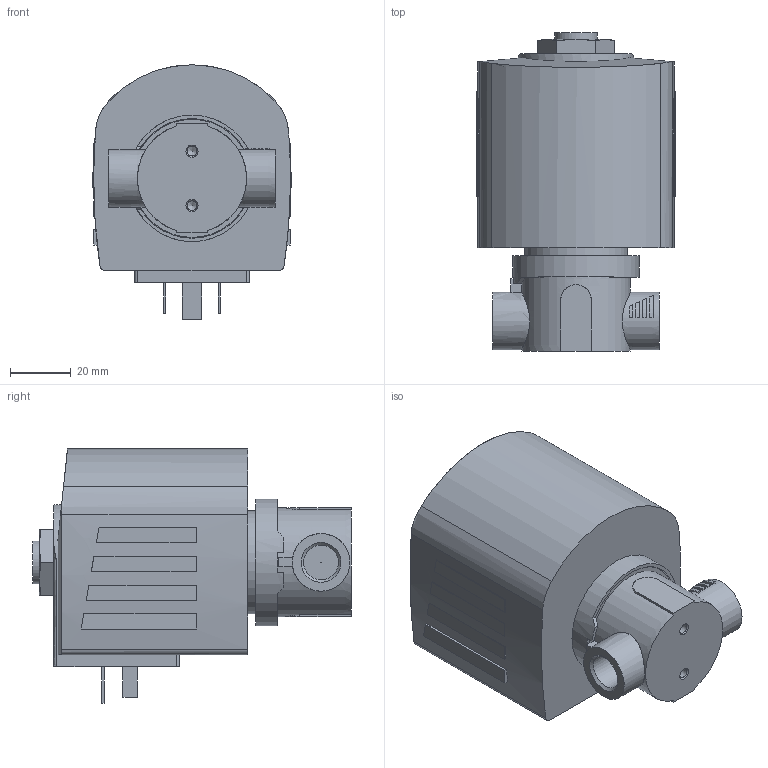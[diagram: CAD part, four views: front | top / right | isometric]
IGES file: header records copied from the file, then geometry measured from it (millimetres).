
Start section: Data from Parasolid IGES Translator 26.0.171, Copyright(c) 2006 Siemens PLM Software. All Rights Reserved.
Global section: file name: 6240-386186-2_2-way_solenoid_valve__pilot-controlled.igs; native system: By Siemens PLM Incorporated; preprocessor: XPlus GENERIC/IGES 26.0.171; author: Noname; organization: Noname; date: 20240510.114510; units: millimetre
Bounding box: 65.62 x 105.2 x 84 mm (x, y, z)
Surface area: 35049.5 mm2 (no closed solid volume)
Topology: 0 solids, 0 shells, 166 faces, 822 edges, 807 vertices
Faces by surface type: extrusion 117, revolution 49
